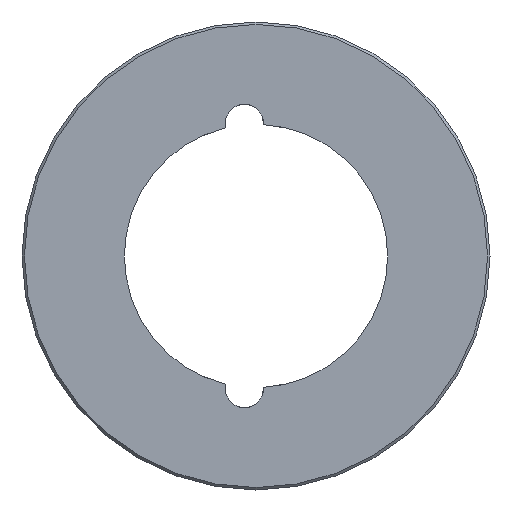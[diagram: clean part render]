
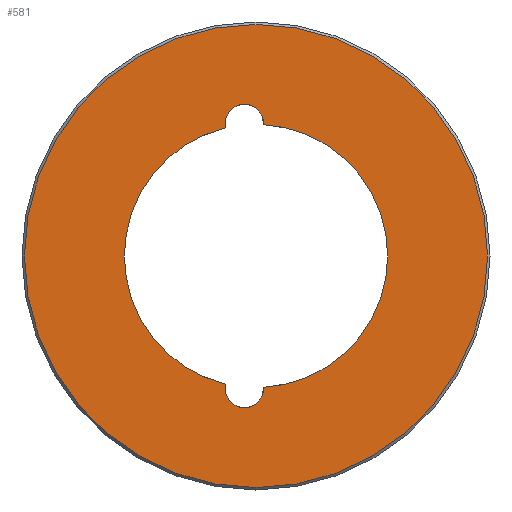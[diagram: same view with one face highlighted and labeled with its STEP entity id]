
A CAD part, left-side view. The second image highlights one B-rep face of the part: STEP entity #581.
In plain terms, the highlighted planar face has unit normal (-1, 0, 0).
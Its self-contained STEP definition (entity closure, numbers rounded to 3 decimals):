
#66=FACE_BOUND('',#207,.T.);
#77=PLANE('',#677);
#124=FACE_OUTER_BOUND('',#206,.T.);
#206=EDGE_LOOP('',(#497));
#207=EDGE_LOOP('',(#498,#499,#500,#501));
#229=CIRCLE('',#599,26.717);
#231=CIRCLE('',#602,3.899);
#233=CIRCLE('',#605,3.899);
#237=CIRCLE('',#611,26.717);
#270=CIRCLE('',#676,47.);
#291=VERTEX_POINT('',#947);
#292=VERTEX_POINT('',#954);
#294=VERTEX_POINT('',#965);
#296=VERTEX_POINT('',#976);
#331=VERTEX_POINT('',#1088);
#347=EDGE_CURVE('',#291,#292,#229,.T.);
#350=EDGE_CURVE('',#294,#292,#231,.T.);
#354=EDGE_CURVE('',#291,#296,#233,.T.);
#358=EDGE_CURVE('',#294,#296,#237,.T.);
#391=EDGE_CURVE('',#331,#331,#270,.T.);
#497=ORIENTED_EDGE('',*,*,#391,.T.);
#498=ORIENTED_EDGE('',*,*,#350,.T.);
#499=ORIENTED_EDGE('',*,*,#347,.F.);
#500=ORIENTED_EDGE('',*,*,#354,.T.);
#501=ORIENTED_EDGE('',*,*,#358,.F.);
#581=ADVANCED_FACE('',(#124,#66),#77,.T.);
#599=AXIS2_PLACEMENT_3D('',#955,#709,#710);
#602=AXIS2_PLACEMENT_3D('',#966,#715,#716);
#605=AXIS2_PLACEMENT_3D('',#984,#721,#722);
#611=AXIS2_PLACEMENT_3D('',#991,#733,#734);
#676=AXIS2_PLACEMENT_3D('',#1089,#863,#864);
#677=AXIS2_PLACEMENT_3D('',#1090,#865,#866);
#709=DIRECTION('center_axis',(-1.,0.,0.));
#710=DIRECTION('ref_axis',(0.,0.,1.));
#715=DIRECTION('center_axis',(1.,0.,0.));
#716=DIRECTION('ref_axis',(0.,0.953,-0.302));
#721=DIRECTION('center_axis',(1.,0.,0.));
#722=DIRECTION('ref_axis',(0.,-0.991,0.132));
#733=DIRECTION('center_axis',(-1.,0.,0.));
#734=DIRECTION('ref_axis',(0.,0.,1.));
#863=DIRECTION('center_axis',(-1.,0.,0.));
#864=DIRECTION('ref_axis',(0.,0.,1.));
#865=DIRECTION('center_axis',(-1.,0.,0.));
#866=DIRECTION('ref_axis',(0.,0.,1.));
#947=CARTESIAN_POINT('',(-56.819,-1.541,24.309));
#954=CARTESIAN_POINT('',(-56.819,-1.541,77.654));
#955=CARTESIAN_POINT('Origin',(-56.819,0.,50.981));
#965=CARTESIAN_POINT('',(-56.819,6.149,76.981));
#966=CARTESIAN_POINT('Origin',(-56.819,2.352,77.866));
#976=CARTESIAN_POINT('',(-56.819,6.149,24.982));
#984=CARTESIAN_POINT('Origin',(-56.819,2.352,24.097));
#991=CARTESIAN_POINT('Origin',(-56.819,0.,50.981));
#1088=CARTESIAN_POINT('',(-56.819,0.,97.981));
#1089=CARTESIAN_POINT('Origin',(-56.819,0.,50.981));
#1090=CARTESIAN_POINT('Origin',(-56.819,0.,77.698));
